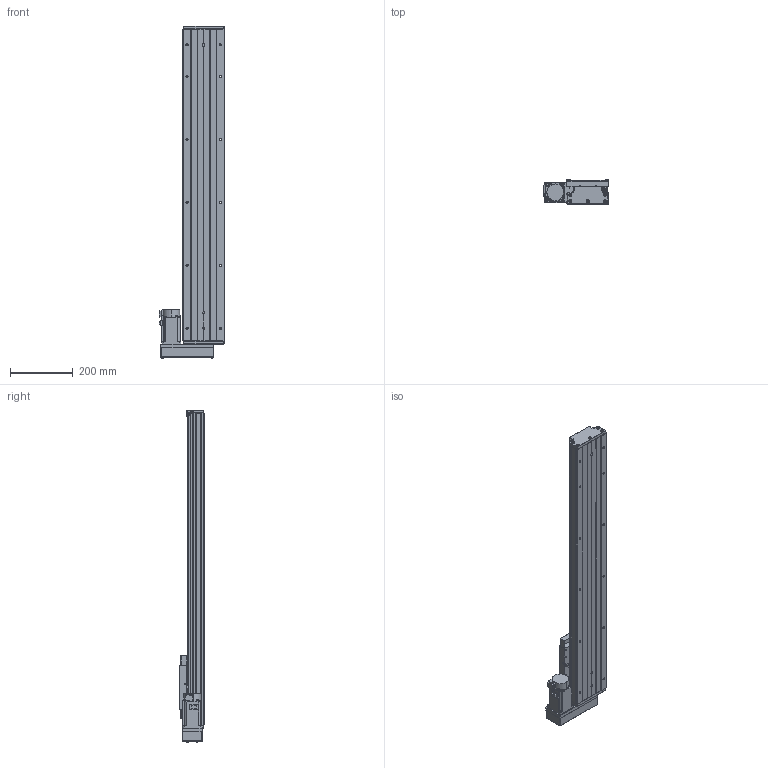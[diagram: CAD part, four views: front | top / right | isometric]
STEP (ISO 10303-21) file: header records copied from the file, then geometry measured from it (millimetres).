
FILE_DESCRIPTION (( 'STEP AP203' ), '1' );
FILE_NAME ('GTH14-750-BL-M40-C4.step', '2023-06-30T08:41:12', ( '微软用户' ), ( '微软中国' ), 'SwSTEP 2.0', 'SolidWorks 2020', '' );
FILE_SCHEMA (( 'CONFIG_CONTROL_DESIGN' ));
Length unit declared in the file: millimetre
Products named in the file (19): CTHA60-017; す晦芛蹟隊 M3℅5; GTH14-001_750; EE_SX911P_R; HG-KN43J-S100; GTH14-002_GTH14-002; CTHA60-016; GBT 70.2-M4¡Á35_M4¡Á35; GTH14-004; GBT 70.1-M3℅5; GTH14-015-2_CTHA86-015-2; GTH14-005; GBT77-2000 M3×3; GTH14-033; GB1155-6X6; GTH14-031; GTH14-750-BL-M40-C4; GBT70.1 M5℅16; GBT 70.2-M3¡Á5_M3¡Á6
Assembly tree (58 placements, depth 2):
  GTH14-750-BL-M40-C4
    GTH14-001_750
    GTH14-002_GTH14-002
    GTH14-004
    GTH14-005
    GB1155-6X6  x2
    GBT70.1 M5℅16  x10
    CTHA60-017  x3
    EE_SX911P_R  x3
    CTHA60-016  x2
    GBT 70.1-M3℅5  x6
    GBT77-2000 M3×3  x6
    GTH14-031
    GBT 70.2-M3¡Á5_M3¡Á6  x8
    す晦芛蹟隊 M3℅5  x6
    HG-KN43J-S100
    GBT 70.2-M4¡Á35_M4¡Á35  x4
    GTH14-015-2_CTHA86-015-2
    GTH14-033
Bounding box: 209.3 x 78 x 1054.2 mm (x, y, z)
Volume: 5764551.2 mm3; surface area: 956940.2 mm2
Topology: 61 solids, 61 shells, 2463 faces, 5857 edges, 3610 vertices
Faces by surface type: plane 1309, cylinder 664, cone 314, torus 124, sphere 32, bspline 20
Entity records: 44466 total; most frequent: CARTESIAN_POINT 9907, DIRECTION 6549, ORIENTED_EDGE 6404, EDGE_CURVE 3202, AXIS2_PLACEMENT_3D 2244, VECTOR 2061, LINE 2061, VERTEX_POINT 2028
